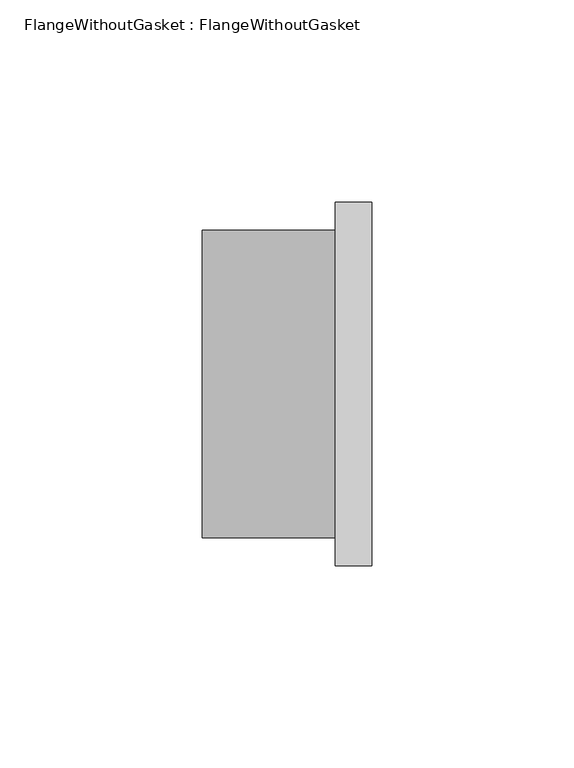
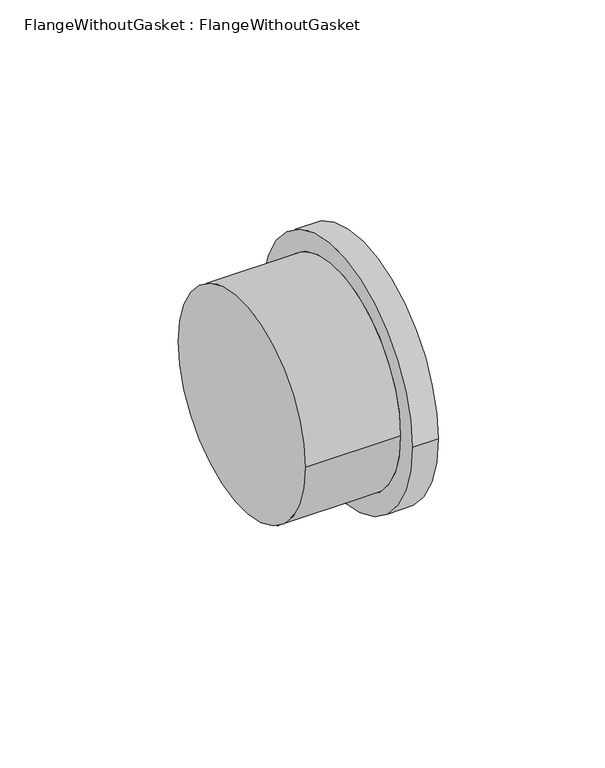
"""IFC4 building model written with IfcOpenShell, lengths in millimetres: pipe fitting geometry, FlangeWithoutGasket : FlangeWithoutGasket."""

from ifc_helpers import new_model, si_unit, frame, origin, place, context, project, spatial, circle_curve, source, transform, mapped, element, save
from ifc_brep_helpers import plane_surface, cylinder_surface, advanced_brep


def flangewithoutgasket_flangewithoutgasket_0f328faf(model_context):
    return source(origin(), model_context, "Body", "AdvancedBrep", [
        advanced_brep(
        [(21.0, 45.0, 0.0), (21.0, -45.0, 0.0), (12.0, 45.0, 0.0), (12.0, -45.0, 0.0), (12.0, 38.0, 0.0), (12.0, -38.0, 0.0), (-21.0, -38.0, 0.0), (-21.0, 38.0, 0.0)],
        [
            (0, 1, circle_curve(frame((21.0, 0.0, 0.0), z_axis=(1.0, 0.0, 0.0), x_axis=(0.0, -1.0, 0.0)), 45.0)),
            (1, 0, circle_curve(frame((21.0, 0.0, 0.0), z_axis=(1.0, 0.0, 0.0), x_axis=(0.0, -1.0, 0.0)), 45.0)),
            (2, 3, circle_curve(frame((12.0, 0.0, 0.0), z_axis=(-1.0, 0.0, 0.0), x_axis=(0.0, -1.0, 0.0)), 45.0)),
            (3, 2, circle_curve(frame((12.0, 0.0, 0.0), z_axis=(-1.0, 0.0, 0.0), x_axis=(0.0, -1.0, 0.0)), 45.0)),
            (4, 5, circle_curve(frame((12.0, 0.0, 0.0), z_axis=(1.0, 0.0, 0.0), x_axis=(0.0, 1.0, 0.0)), 38.0)),
            (5, 4, circle_curve(frame((12.0, 0.0, 0.0), z_axis=(1.0, 0.0, 0.0), x_axis=(0.0, 1.0, 0.0)), 38.0)),
            (0, 2),
            (3, 1),
            (6, 7, circle_curve(frame((-21.0, 0.0, 0.0), z_axis=(-1.0, 0.0, 0.0), x_axis=(0.0, 1.0, 0.0)), 38.0)),
            (7, 6, circle_curve(frame((-21.0, 0.0, 0.0), z_axis=(-1.0, 0.0, 0.0), x_axis=(0.0, 1.0, 0.0)), 38.0)),
            (6, 5),
            (4, 7),
        ],
        [
            plane_surface(frame((21.0, 0.0, 0.0), z_axis=(1.0, 0.0, 0.0), x_axis=(0.0, 0.0, 1.0))),
            plane_surface(frame((12.0, 0.0, 0.0), z_axis=(-1.0, 0.0, 0.0), x_axis=(0.0, 0.0, 1.0))),
            cylinder_surface(frame((21.0, 0.0, 0.0), z_axis=(1.0, 0.0, 0.0), x_axis=(0.0, -1.0, 0.0)), 45.0),
            plane_surface(frame((-21.0, 0.0, 0.0), z_axis=(-1.0, 0.0, 0.0), x_axis=(0.0, 0.0, 1.0))),
            cylinder_surface(frame((-21.0, 0.0, 0.0), z_axis=(-1.0, 0.0, 0.0), x_axis=(0.0, 1.0, 0.0)), 38.0),
        ],
        [
            (0, [[1, 2]]),
            (1, [[3, 4], [5, 6]]),
            (2, [[-1, 7, -4, 8]]),
            (2, [[-2, -8, -3, -7]]),
            (3, [[9, 10]]),
            (4, [[-9, 11, -5, 12]]),
            (4, [[-10, -12, -6, -11]]),
        ],
    ),
    ])


if __name__ == "__main__":
    model = new_model("IFC4")
    model_context = context("Model", 3, world=origin())
    ifc_project = project(units=[si_unit("LENGTHUNIT", "METRE", prefix="MILLI")], contexts=[model_context])
    site = spatial("IfcSite", under=ifc_project)
    building = spatial("IfcBuilding", under=site)
    placement = place(None, origin())
    flangewithoutgasket_flangewithoutgasket_shape = flangewithoutgasket_flangewithoutgasket_0f328faf(model_context)
    element("IfcPipeFitting", 1, ObjectType="FlangeWithoutGasket : FlangeWithoutGasket", at=placement, inside=building, context=model_context, shape_type="MappedRepresentation", body=[
        mapped(flangewithoutgasket_flangewithoutgasket_shape, transform((0.0, 0.0, 0.0), x_axis=(1.0, 0.0, 0.0), y_axis=(0.0, 1.0, 0.0), z_axis=(0.0, 0.0, 1.0))),
    ])
    save(model, "model.ifc")
